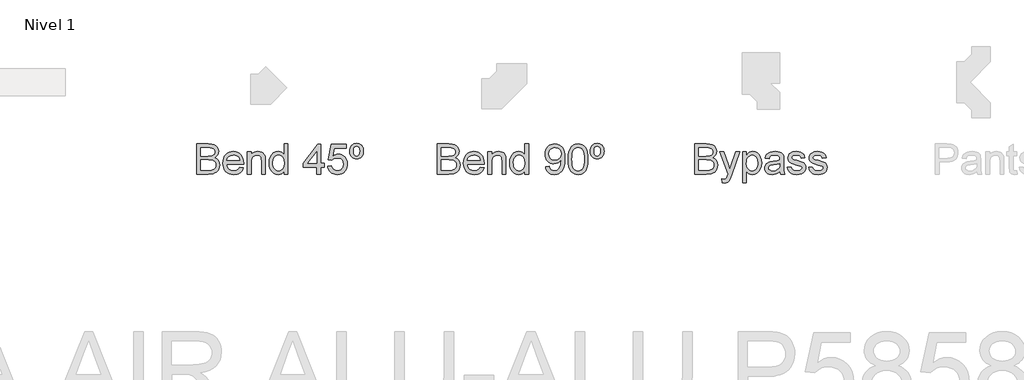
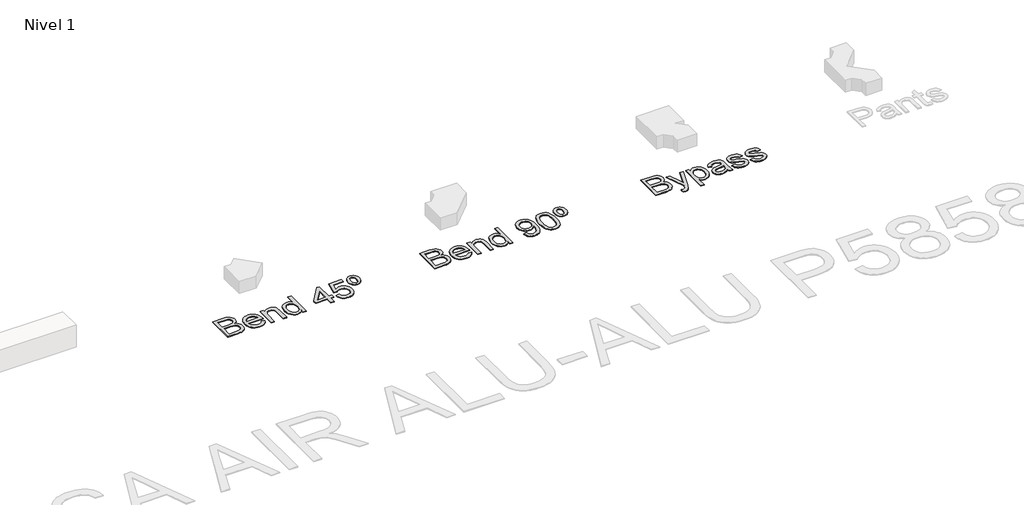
# One storey, part 4 of 7: 3 proxies.
"""IFC4 building model written with IfcOpenShell, lengths in millimetres."""

from ifc_helpers import new_model, si_unit, origin, origin_with_axes, place, context, project, spatial, polyline, outline, extrude, element, save

model = new_model("IFC4")

# Units and contexts
model_context = context("Model", 3, world=origin())
ifc_project = project(units=[si_unit("LENGTHUNIT", "METRE", prefix="MILLI")], contexts=[model_context])

# Site, building, storey
site = spatial("IfcSite", under=ifc_project)
building = spatial("IfcBuilding", under=site)
storey = spatial("IfcBuildingStorey", under=building, Name="Nivel 1", Elevation=0.0)

# Proxies
placement = place(None, origin())
element("IfcBuildingElementProxy", 1, Name="Texto de modelo 1", ObjectType="Texto de modelo 1", at=placement, inside=storey, context=model_context, shape_type="SweptSolid", body=[
    extrude(outline(polyline([(-13047.2257792, -4316.3248037), (-13047.2257792, -3914.4995631), (-12893.8925636, -3914.4995631), (-12851.7210242, -3917.4548818), (-12818.7955857, -3926.3208379), (-12793.5588808, -3941.3181605), (-12774.4535425, -3962.667579), (-12762.4238013, -3987.7816565), (-12758.4138875, -4014.0729565), (-12761.7861391, -4038.267329), (-12771.902894, -4061.014699), (-12788.8377285, -4080.917115), (-12812.6642191, -4096.5766252), (-12784.2024154, -4111.4390578), (-12763.171828, -4134.0515378), (-12750.1855936, -4162.9180117), (-12745.8568488, -4196.5424261), (-12748.8121674, -4224.5627714), (-12757.6781235, -4250.547503), (-12770.9096126, -4272.6449481), (-12786.9615303, -4289.0034342), (-12806.6186916, -4300.8492344), (-12830.6659114, -4309.4086222), (-12859.8880045, -4314.5957583), (-12895.069786, -4316.3248037), (-13047.2257792, -4316.3248037)]), holes=[polyline([(-12996.9976241, -4077.7410671), (-12905.27238, -4077.7410671), (-12851.7087615, -4073.424585), (-12832.9590425, -4065.981106), (-12819.4822987, -4054.8342815), (-12811.3521066, -4040.1557899), (-12808.6420426, -4022.1173094), (-12811.1681656, -4004.6061264), (-12818.7465347, -3989.3512864), (-12831.0337934, -3977.4441725), (-12847.686585, -3969.976168), (-12873.2421209, -3966.0398306), (-12912.2376124, -3964.7277182), (-12996.9976241, -3964.7277182), (-12996.9976241, -4077.7410671)]), polyline([(-12996.9976241, -4266.0966486), (-12893.9906655, -4266.0966486), (-12856.7119566, -4264.1346113), (-12825.1722069, -4253.1962533), (-12813.5961868, -4243.7662115), (-12804.2765096, -4230.8780789), (-12798.1328803, -4215.1082041), (-12796.0850038, -4197.0329354), (-12798.4884995, -4176.0391362), (-12805.6989866, -4157.988393), (-12818.2928136, -4143.8739871), (-12836.8463289, -4134.6891999), (-12863.1253661, -4129.6492166), (-12898.8957587, -4127.9692222), (-12996.9976241, -4127.9692222), (-12996.9976241, -4266.0966486)])]), origin_with_axes(), (0.0, 0.0, 1.0), 10.0),
    extrude(outline(polyline([(-12476.4691264, -4228.4255323), (-12427.22199, -4234.7040517), (-12434.7727679, -4254.428658), (-12444.9661649, -4271.8110823), (-12457.8021808, -4286.8513245), (-12473.2808158, -4299.5493847), (-12491.2426542, -4309.6354827), (-12511.5282806, -4316.8398385), (-12559.0708971, -4322.6033231), (-12590.2366334, -4320.1170539), (-12618.0055927, -4312.6582465), (-12642.3777749, -4300.2269007), (-12663.35318, -4282.8230167), (-12680.2205694, -4260.9309723), (-12692.2687048, -4235.0351455), (-12699.497586, -4205.1355363), (-12701.9072131, -4171.2321448), (-12699.4730605, -4136.179122), (-12692.1706029, -4105.2831658), (-12679.9998402, -4078.5442761), (-12662.9607725, -4055.962453), (-12642.0405497, -4038.0220743), (-12618.2263219, -4025.2075182), (-12591.518089, -4017.5187845), (-12561.9158512, -4014.9558732), (-12533.2670408, -4017.5126531), (-12507.3589513, -4025.1829927), (-12484.1915826, -4037.966892), (-12463.7649348, -4055.8643511), (-12447.0906834, -4078.3971233), (-12435.1805038, -4105.0869621), (-12428.0343961, -4135.9338674), (-12425.6523601, -4170.9378392), (-12425.9466657, -4184.4758966), (-12651.679058, -4184.4758966), (-12648.7697245, -4204.519334), (-12642.9847802, -4222.0734365), (-12634.3242249, -4237.1382042), (-12622.7880586, -4249.7136371), (-12609.0139436, -4259.6280569), (-12593.6395419, -4266.7097853), (-12558.0898784, -4272.375168), (-12531.3571201, -4269.7509431), (-12508.842742, -4261.8782684), (-12490.5467441, -4248.2666346), (-12476.4691264, -4228.4255323)]), holes=[polyline([(-12651.679058, -4134.2477415), (-12475.8805152, -4134.2477415), (-12482.6740694, -4107.711187), (-12495.9913976, -4088.728476), (-12509.6888706, -4078.4277801), (-12525.2748044, -4071.0701402), (-12542.7491992, -4066.6555563), (-12562.1120549, -4065.1840283), (-12595.9694612, -4069.8806551), (-12623.965281, -4083.9705355), (-12643.4262386, -4105.9330907), (-12651.679058, -4134.2477415)])]), origin_with_axes(), (0.0, 0.0, 1.0), 10.0),
    extrude(outline(polyline([(-12375.4242051, -4316.3248037), (-12375.4242051, -4021.2343926), (-12325.19605, -4021.2343926), (-12325.19605, -4062.4371761), (-12307.7461807, -4041.6641061), (-12286.7891697, -4026.826199), (-12262.325017, -4017.9234547), (-12234.3537227, -4014.9558732), (-12209.5952644, -4017.3471062), (-12186.9214707, -4024.5208051), (-12168.0123362, -4035.5817904), (-12154.5478552, -4049.6348827), (-12145.412119, -4066.6432936), (-12139.4892188, -4086.570235), (-12136.8404685, -4135.1306583), (-12136.8404685, -4316.3248037), (-12187.0686235, -4316.3248037), (-12187.0686235, -4141.899687), (-12188.5156261, -4115.9272182), (-12192.8566336, -4097.459542), (-12200.8641984, -4084.2280529), (-12213.3108725, -4073.9641453), (-12229.2646884, -4067.3790576), (-12247.7936782, -4065.1840283), (-12277.2119751, -4070.1136471), (-12302.2892644, -4084.9025033), (-12312.3109831, -4096.9751641), (-12319.4693536, -4113.4746716), (-12323.7643759, -4134.4010257), (-12325.19605, -4159.7542265), (-12325.19605, -4316.3248037), (-12375.4242051, -4316.3248037)])), origin_with_axes(), (0.0, 0.0, 1.0), 10.0),
    extrude(outline(polyline([(-11885.6996931, -4316.3248037), (-11885.6996931, -4268.9416027), (-11900.7276726, -4292.4186054), (-11918.9317, -4309.187893), (-11940.3117753, -4319.2494656), (-11964.8678985, -4322.6033231), (-11997.3396159, -4317.7472807), (-12027.0644811, -4303.1791537), (-12052.2276096, -4279.9167489), (-12071.0141168, -4248.9778731), (-12082.7127642, -4211.6133251), (-12086.6123134, -4169.0739038), (-12083.0193326, -4127.0617799), (-12072.2403901, -4089.1208835), (-12054.2877488, -4057.4094555), (-12029.1736712, -4034.085737), (-11998.7988811, -4019.7383392), (-11965.0641022, -4014.9558732), (-11940.4895849, -4018.3771758), (-11918.7600217, -4028.6410835), (-11900.3413965, -4044.3741701), (-11885.6996931, -4064.2030097), (-11885.6996931, -3914.4995631), (-11835.471538, -3914.4995631), (-11835.471538, -4316.3248037), (-11885.6996931, -4316.3248037)]), holes=[polyline([(-12036.3841583, -4168.8777), (-12034.9678126, -4193.2345538), (-12030.7187756, -4214.3111264), (-12023.6370472, -4232.1074179), (-12013.7226274, -4246.6234283), (-11989.0254828, -4265.9372331), (-11975.1502002, -4270.7656843), (-11960.2571108, -4272.375168), (-11945.2935106, -4270.8392607), (-11931.5010015, -4266.2315387), (-11907.4292563, -4247.8006507), (-11897.9225724, -4233.8916456), (-11891.1320839, -4216.7391476), (-11885.6996931, -4172.7036728), (-11891.2301858, -4124.5601823), (-11898.1433016, -4106.0250612), (-11907.8216637, -4091.1810226), (-11919.5233769, -4079.8073376), (-11932.5065456, -4071.6832769), (-11946.77117, -4066.8088405), (-11962.31725, -4065.1840283), (-11977.504645, -4066.7444611), (-11991.3799276, -4071.4257595), (-12003.9430977, -4079.2279235), (-12015.1941554, -4090.1509531), (-12024.4647817, -4104.4339715), (-12031.0866576, -4122.3161022), (-12036.3841583, -4168.8777)])]), origin_with_axes(), (0.0, 0.0, 1.0), 10.0),
    extrude(outline(polyline([(-11452.4818556, -4316.3248037), (-11452.4818556, -4222.1470129), (-11634.5589177, -4222.1470129), (-11634.5589177, -4171.9188579), (-11439.9248168, -3920.7780825), (-11402.2537005, -3920.7780825), (-11402.2537005, -4171.9188579), (-11352.0255454, -4171.9188579), (-11352.0255454, -4222.1470129), (-11402.2537005, -4222.1470129), (-11402.2537005, -4316.3248037), (-11452.4818556, -4316.3248037)]), holes=[polyline([(-11452.4818556, -4171.9188579), (-11452.4818556, -4016.7217068), (-11572.7547425, -4171.9188579), (-11452.4818556, -4171.9188579)])]), origin_with_axes(), (0.0, 0.0, 1.0), 10.0),
    extrude(outline(polyline([(-11308.0759097, -4209.5899742), (-11257.8477547, -4203.3114548), (-11248.6261793, -4233.4655156), (-11232.5374734, -4255.0601888), (-11209.6552133, -4268.0464232), (-11180.0529754, -4272.375168), (-11160.9231117, -4270.8699175), (-11144.0495908, -4266.354166), (-11129.4324129, -4258.8279135), (-11117.0715778, -4248.2911601), (-11107.2429972, -4235.2650717), (-11100.2225825, -4220.2708148), (-11094.6062507, -4184.3777948), (-11099.8669632, -4150.5817021), (-11106.4428539, -4136.6635), (-11115.6491008, -4124.7318606), (-11127.5163608, -4115.1607974), (-11142.0752908, -4108.3243236), (-11179.2681605, -4102.8551446), (-11203.6342113, -4105.0379111), (-11223.364949, -4111.5862106), (-11239.1225611, -4121.6171264), (-11251.5692353, -4134.2477415), (-11301.7973903, -4127.9692222), (-11257.8477547, -3920.7780825), (-11063.2136537, -3920.7780825), (-11063.2136537, -3971.0062376), (-11217.2335824, -3971.0062376), (-11238.7178909, -4081.6651417), (-11220.9921101, -4068.9609501), (-11202.8371336, -4059.8865276), (-11184.2529615, -4054.4418741), (-11165.2395937, -4052.6269896), (-11140.7785067, -4054.8772011), (-11118.3101139, -4061.6278357), (-11097.8344152, -4072.8788934), (-11079.3514106, -4088.6303741), (-11064.0505853, -4107.9196534), (-11053.1214243, -4129.7841067), (-11046.5639278, -4154.2237339), (-11044.3780956, -4181.2385351), (-11046.3462643, -4207.2600549), (-11052.2507703, -4231.4666901), (-11062.0916137, -4253.8584409), (-11075.8687944, -4274.4353072), (-11096.7399662, -4295.5088141), (-11121.0937543, -4310.5613191), (-11148.9301586, -4319.5928221), (-11180.2491791, -4322.6033231), (-11206.1695314, -4320.6688769), (-11229.5821547, -4314.8655384), (-11250.4870491, -4305.1933077), (-11268.8842145, -4291.6521846), (-11284.1911712, -4274.9166195), (-11295.8254393, -4255.6610627), (-11303.7870188, -4233.8855143), (-11308.0759097, -4209.5899742)])), origin_with_axes(), (0.0, 0.0, 1.0), 10.0),
    extrude(outline(polyline([(-10921.9469676, -3908.2210437), (-10902.7619215, -3909.9439577), (-10885.4285482, -3915.1126998), (-10869.9468476, -3923.7272698), (-10856.3168197, -3935.7876679), (-10845.200652, -3950.8830924), (-10837.2605323, -3968.6027419), (-10832.4964605, -3988.9466162), (-10830.9084365, -4011.9147154), (-10832.5056575, -4034.7969755), (-10837.2973205, -4055.0795362), (-10845.2834255, -4072.7623974), (-10856.4639725, -4087.8455592), (-10870.1215915, -4099.9059573), (-10885.5389128, -4108.5205274), (-10902.7159363, -4113.6892694), (-10921.652662, -4115.4121834), (-10940.8469051, -4113.7229919), (-10958.2078696, -4108.6554174), (-10973.7355555, -4100.2094599), (-10987.4299627, -4088.3851195), (-10998.6105097, -4073.5441467), (-11006.5966147, -4056.0482921), (-11011.3882777, -4035.8975558), (-11012.9854987, -4013.0919378), (-11011.3974747, -3989.6088038), (-11006.6334029, -3968.8970474), (-10998.6932832, -3950.9566688), (-10987.5771155, -3935.7876679), (-10973.9470876, -3923.7272698), (-10958.465387, -3915.1126998), (-10941.1320136, -3909.9439577), (-10921.9469676, -3908.2210437)]), holes=[polyline([(-10921.9469676, -3945.89216), (-10938.5139201, -3949.754921), (-10951.52468, -3961.3432038), (-10959.9491777, -3981.6870781), (-10962.7573436, -4011.8166136), (-10959.9001268, -4041.394326), (-10951.3284763, -4061.8485649), (-10938.2686654, -4073.7679415), (-10921.9469676, -4077.7410671), (-10905.5026424, -4073.7679415), (-10892.467357, -4061.8485649), (-10883.969283, -4041.0509694), (-10881.1365916, -4010.4431874), (-10883.9938084, -3981.7116036), (-10892.5654589, -3961.6375094), (-10905.6252697, -3949.8284974), (-10921.9469676, -3945.89216)])]), origin_with_axes(), (0.0, 0.0, 1.0), 10.0),
])
element("IfcBuildingElementProxy", 2, Name="Texto de modelo 1", ObjectType="Texto de modelo 1", at=placement, inside=storey, context=model_context, shape_type="SweptSolid", body=[
    extrude(outline(polyline([(-9847.2257792, -4316.3248037), (-9847.2257792, -3914.4995631), (-9693.8925636, -3914.4995631), (-9651.7210242, -3917.4548818), (-9618.7955857, -3926.3208379), (-9593.5588808, -3941.3181605), (-9574.4535425, -3962.667579), (-9562.4238013, -3987.7816565), (-9558.4138875, -4014.0729565), (-9561.7861391, -4038.267329), (-9571.902894, -4061.014699), (-9588.8377285, -4080.917115), (-9612.6642191, -4096.5766252), (-9584.2024154, -4111.4390578), (-9563.171828, -4134.0515378), (-9550.1855936, -4162.9180117), (-9545.8568488, -4196.5424261), (-9548.8121674, -4224.5627714), (-9557.6781235, -4250.547503), (-9570.9096126, -4272.6449481), (-9586.9615303, -4289.0034342), (-9606.6186916, -4300.8492344), (-9630.6659114, -4309.4086222), (-9659.8880045, -4314.5957583), (-9695.069786, -4316.3248037), (-9847.2257792, -4316.3248037)]), holes=[polyline([(-9796.9976241, -4077.7410671), (-9705.27238, -4077.7410671), (-9651.7087615, -4073.424585), (-9632.9590425, -4065.981106), (-9619.4822987, -4054.8342815), (-9611.3521066, -4040.1557899), (-9608.6420426, -4022.1173094), (-9611.1681656, -4004.6061264), (-9618.7465347, -3989.3512864), (-9631.0337934, -3977.4441725), (-9647.686585, -3969.976168), (-9673.2421209, -3966.0398306), (-9712.2376124, -3964.7277182), (-9796.9976241, -3964.7277182), (-9796.9976241, -4077.7410671)]), polyline([(-9796.9976241, -4266.0966486), (-9693.9906655, -4266.0966486), (-9656.7119566, -4264.1346113), (-9625.1722069, -4253.1962533), (-9613.5961868, -4243.7662115), (-9604.2765096, -4230.8780789), (-9598.1328803, -4215.1082041), (-9596.0850038, -4197.0329354), (-9598.4884995, -4176.0391362), (-9605.6989866, -4157.988393), (-9618.2928136, -4143.8739871), (-9636.8463289, -4134.6891999), (-9663.1253661, -4129.6492166), (-9698.8957587, -4127.9692222), (-9796.9976241, -4127.9692222), (-9796.9976241, -4266.0966486)])]), origin_with_axes(), (0.0, 0.0, 1.0), 10.0),
    extrude(outline(polyline([(-9276.4691264, -4228.4255323), (-9227.22199, -4234.7040517), (-9234.7727679, -4254.428658), (-9244.9661649, -4271.8110823), (-9257.8021808, -4286.8513245), (-9273.2808158, -4299.5493847), (-9291.2426542, -4309.6354827), (-9311.5282806, -4316.8398385), (-9359.0708971, -4322.6033231), (-9390.2366334, -4320.1170539), (-9418.0055927, -4312.6582465), (-9442.3777749, -4300.2269007), (-9463.35318, -4282.8230167), (-9480.2205694, -4260.9309723), (-9492.2687048, -4235.0351455), (-9499.497586, -4205.1355363), (-9501.9072131, -4171.2321448), (-9499.4730605, -4136.179122), (-9492.1706029, -4105.2831658), (-9479.9998402, -4078.5442761), (-9462.9607725, -4055.962453), (-9442.0405497, -4038.0220743), (-9418.2263219, -4025.2075182), (-9391.518089, -4017.5187845), (-9361.9158512, -4014.9558732), (-9333.2670408, -4017.5126531), (-9307.3589513, -4025.1829927), (-9284.1915826, -4037.966892), (-9263.7649348, -4055.8643511), (-9247.0906834, -4078.3971233), (-9235.1805038, -4105.0869621), (-9228.0343961, -4135.9338674), (-9225.6523601, -4170.9378392), (-9225.9466657, -4184.4758966), (-9451.679058, -4184.4758966), (-9448.7697245, -4204.519334), (-9442.9847802, -4222.0734365), (-9434.3242249, -4237.1382042), (-9422.7880586, -4249.7136371), (-9409.0139436, -4259.6280569), (-9393.6395419, -4266.7097853), (-9358.0898784, -4272.375168), (-9331.3571201, -4269.7509431), (-9308.842742, -4261.8782684), (-9290.5467441, -4248.2666346), (-9276.4691264, -4228.4255323)]), holes=[polyline([(-9451.679058, -4134.2477415), (-9275.8805152, -4134.2477415), (-9282.6740694, -4107.711187), (-9295.9913976, -4088.728476), (-9309.6888706, -4078.4277801), (-9325.2748044, -4071.0701402), (-9342.7491992, -4066.6555563), (-9362.1120549, -4065.1840283), (-9395.9694612, -4069.8806551), (-9423.965281, -4083.9705355), (-9443.4262386, -4105.9330907), (-9451.679058, -4134.2477415)])]), origin_with_axes(), (0.0, 0.0, 1.0), 10.0),
    extrude(outline(polyline([(-9175.4242051, -4316.3248037), (-9175.4242051, -4021.2343926), (-9125.19605, -4021.2343926), (-9125.19605, -4062.4371761), (-9107.7461807, -4041.6641061), (-9086.7891697, -4026.826199), (-9062.325017, -4017.9234547), (-9034.3537227, -4014.9558732), (-9009.5952644, -4017.3471062), (-8986.9214707, -4024.5208051), (-8968.0123362, -4035.5817904), (-8954.5478552, -4049.6348827), (-8945.412119, -4066.6432936), (-8939.4892188, -4086.570235), (-8936.8404685, -4135.1306583), (-8936.8404685, -4316.3248037), (-8987.0686235, -4316.3248037), (-8987.0686235, -4141.899687), (-8988.5156261, -4115.9272182), (-8992.8566336, -4097.459542), (-9000.8641984, -4084.2280529), (-9013.3108725, -4073.9641453), (-9029.2646884, -4067.3790576), (-9047.7936782, -4065.1840283), (-9077.2119751, -4070.1136471), (-9102.2892644, -4084.9025033), (-9112.3109831, -4096.9751641), (-9119.4693536, -4113.4746716), (-9123.7643759, -4134.4010257), (-9125.19605, -4159.7542265), (-9125.19605, -4316.3248037), (-9175.4242051, -4316.3248037)])), origin_with_axes(), (0.0, 0.0, 1.0), 10.0),
    extrude(outline(polyline([(-8685.6996931, -4316.3248037), (-8685.6996931, -4268.9416027), (-8700.7276726, -4292.4186054), (-8718.9317, -4309.187893), (-8740.3117753, -4319.2494656), (-8764.8678985, -4322.6033231), (-8797.3396159, -4317.7472807), (-8827.0644811, -4303.1791537), (-8852.2276096, -4279.9167489), (-8871.0141168, -4248.9778731), (-8882.7127642, -4211.6133251), (-8886.6123134, -4169.0739038), (-8883.0193326, -4127.0617799), (-8872.2403901, -4089.1208835), (-8854.2877488, -4057.4094555), (-8829.1736712, -4034.085737), (-8798.7988811, -4019.7383392), (-8765.0641022, -4014.9558732), (-8740.4895849, -4018.3771758), (-8718.7600217, -4028.6410835), (-8700.3413965, -4044.3741701), (-8685.6996931, -4064.2030097), (-8685.6996931, -3914.4995631), (-8635.471538, -3914.4995631), (-8635.471538, -4316.3248037), (-8685.6996931, -4316.3248037)]), holes=[polyline([(-8836.3841583, -4168.8777), (-8834.9678126, -4193.2345538), (-8830.7187756, -4214.3111264), (-8823.6370472, -4232.1074179), (-8813.7226274, -4246.6234283), (-8789.0254828, -4265.9372331), (-8775.1502002, -4270.7656843), (-8760.2571108, -4272.375168), (-8745.2935106, -4270.8392607), (-8731.5010015, -4266.2315387), (-8707.4292563, -4247.8006507), (-8697.9225724, -4233.8916456), (-8691.1320839, -4216.7391476), (-8685.6996931, -4172.7036728), (-8691.2301858, -4124.5601823), (-8698.1433016, -4106.0250612), (-8707.8216637, -4091.1810226), (-8719.5233769, -4079.8073376), (-8732.5065456, -4071.6832769), (-8746.77117, -4066.8088405), (-8762.31725, -4065.1840283), (-8777.504645, -4066.7444611), (-8791.3799276, -4071.4257595), (-8803.9430977, -4079.2279235), (-8815.1941554, -4090.1509531), (-8824.4647817, -4104.4339715), (-8831.0866576, -4122.3161022), (-8836.3841583, -4168.8777)])]), origin_with_axes(), (0.0, 0.0, 1.0), 10.0),
    extrude(outline(polyline([(-8409.4448402, -4215.8684935), (-8359.2166851, -4209.5899742), (-8350.6327719, -4238.1008288), (-8336.6532561, -4257.5127354), (-8317.6214942, -4268.6595599), (-8293.8808428, -4272.375168), (-8272.5804752, -4269.983935), (-8253.2176196, -4262.8102361), (-8237.1289136, -4251.6388862), (-8225.6509954, -4237.2547002), (-8209.2189329, -4193.5993701), (-8203.7742794, -4165.1988801), (-8201.9593949, -4135.3268621), (-8202.2537005, -4125.5166755), (-8219.6545189, -4146.7557294), (-8242.4264144, -4163.5801993), (-8268.9261808, -4174.5430828), (-8297.5106118, -4178.1973772), (-8321.3708249, -4175.9655598), (-8343.3119202, -4169.2701075), (-8363.3338978, -4158.1110203), (-8381.4367576, -4142.4882982), (-8396.437146, -4123.2174131), (-8407.1517091, -4101.1138365), (-8413.5804469, -4076.1775686), (-8415.7233596, -4048.4086093), (-8413.4762137, -4019.7138137), (-8406.7347762, -3993.9620741), (-8395.4990469, -3971.1533904), (-8379.7690259, -3951.2877626), (-8360.6544906, -3935.1929253), (-8339.2652182, -3923.696613), (-8315.6012089, -3916.7988256), (-8289.6624626, -3914.4995631), (-8252.1998127, -3919.7480129), (-8218.0971518, -3935.4933623), (-8189.5740344, -3960.9507964), (-8168.8500153, -3995.3355002), (-8156.2316629, -4042.8658539), (-8152.0255454, -4107.7602379), (-8156.2194002, -4176.5664337), (-8168.8009644, -4229.7499075), (-8189.6598735, -4269.7141549), (-8203.1519457, -4285.6403796), (-8218.685763, -4298.8626717), (-8235.9486256, -4309.2492067), (-8254.6278339, -4316.6681602), (-8296.2352875, -4322.6033231), (-8318.7925852, -4320.8528179), (-8339.1793791, -4315.6013024), (-8357.3956692, -4306.8487766), (-8373.4414556, -4294.5952405), (-8386.912068, -4279.1717879), (-8397.4028362, -4260.9095125), (-8404.9137603, -4239.8084144), (-8409.4448402, -4215.8684935)]), holes=[polyline([(-8202.2537005, -4047.231387), (-8207.6738286, -4013.1900397), (-8214.4489886, -3999.112422), (-8223.9342127, -3986.9968416), (-8235.663517, -3977.2541001), (-8249.1709176, -3970.294999), (-8281.5200077, -3964.7277182), (-8299.1292926, -3966.2268373), (-8315.0708457, -3970.7241947), (-8329.3446671, -3978.2197903), (-8341.9507568, -3988.7136243), (-8352.2514527, -4001.5925598), (-8359.6090926, -4016.2434602), (-8364.0236765, -4032.6663256), (-8365.4952045, -4050.861156), (-8359.9279236, -4081.8981336), (-8352.9688226, -4095.0161924), (-8343.2260811, -4106.5339646), (-8331.1043693, -4115.9118898), (-8317.0083575, -4122.6104078), (-8282.8934338, -4127.9692222), (-8250.8018611, -4122.6104078), (-8224.9642823, -4106.5339646), (-8215.0284028, -4094.7893319), (-8207.931346, -4080.9906914), (-8202.2537005, -4047.231387)])]), origin_with_axes(), (0.0, 0.0, 1.0), 10.0),
    extrude(outline(polyline([(-8108.0759097, -4118.649545), (-8104.384827, -4054.3315095), (-8093.311579, -4003.0364966), (-8074.9665302, -3963.9796914), (-8063.1084672, -3948.7463112), (-8049.4600452, -3936.3762791), (-8033.9752789, -3926.8052158), (-8016.608183, -3919.9687421), (-7976.2270027, -3914.4995631), (-7945.2758641, -3917.7369247), (-7917.5620872, -3927.4490093), (-7894.3855215, -3943.2556724), (-7877.0460168, -3964.7767691), (-7863.9494177, -3991.8283585), (-7853.5015691, -4024.2264995), (-7846.658964, -4065.3679693), (-7844.3780956, -4118.649545), (-7848.0323901, -4182.5996984), (-7858.9952735, -4233.772084), (-7877.2299578, -4272.8656773), (-7889.0604296, -4288.1450429), (-7902.6996546, -4300.5794543), (-7918.202815, -4310.2148969), (-7935.6250931, -4317.0973559), (-7976.2270027, -4322.6033231), (-8003.8917287, -4320.2120901), (-8028.417195, -4313.0383912), (-8049.8034017, -4301.0822264), (-8068.0503487, -4284.3435956), (-8085.5615316, -4254.0853015), (-8098.0695195, -4216.3835283), (-8105.5743122, -4171.2382762), (-8108.0759097, -4118.649545)]), holes=[polyline([(-8057.8477547, -4118.5514431), (-8056.3762267, -4162.2159702), (-8051.9616427, -4197.5602329), (-8044.6040028, -4224.5842311), (-8034.303307, -4243.2879649), (-8021.8443701, -4256.0136163), (-8008.012007, -4265.1033672), (-7992.8062179, -4270.5572178), (-7976.2270027, -4272.375168), (-7959.6477874, -4270.5510864), (-7944.4419983, -4265.0788418), (-7930.6096353, -4255.958434), (-7918.1506984, -4243.1898631), (-7907.8500025, -4224.4554724), (-7900.4923626, -4197.4376056), (-7896.0777786, -4162.1362625), (-7894.6062507, -4118.5514431), (-7896.0287277, -4076.0426785), (-7900.2961589, -4041.3207496), (-7907.4085441, -4014.3856562), (-7917.3658834, -3995.2373983), (-7929.6163539, -3981.8894132), (-7943.6081324, -3972.3551382), (-7959.3412191, -3966.6345732), (-7976.8156139, -3964.7277182), (-7993.30899, -3966.4077126), (-8008.2572617, -3971.4476959), (-8021.6604291, -3979.8476682), (-8033.518492, -3991.6076293), (-8044.1625444, -4012.4542757), (-8051.765439, -4040.5604601), (-8056.3271757, -4075.9261826), (-8057.8477547, -4118.5514431)])]), origin_with_axes(), (0.0, 0.0, 1.0), 10.0),
    extrude(outline(polyline([(-7721.9469676, -3908.2210437), (-7702.7619215, -3909.9439577), (-7685.4285482, -3915.1126998), (-7669.9468476, -3923.7272698), (-7656.3168197, -3935.7876679), (-7645.200652, -3950.8830924), (-7637.2605323, -3968.6027419), (-7632.4964605, -3988.9466162), (-7630.9084365, -4011.9147154), (-7632.5056575, -4034.7969755), (-7637.2973205, -4055.0795362), (-7645.2834255, -4072.7623974), (-7656.4639725, -4087.8455592), (-7670.1215915, -4099.9059573), (-7685.5389128, -4108.5205274), (-7702.7159363, -4113.6892694), (-7721.652662, -4115.4121834), (-7740.8469051, -4113.7229919), (-7758.2078696, -4108.6554174), (-7773.7355555, -4100.2094599), (-7787.4299627, -4088.3851195), (-7798.6105097, -4073.5441467), (-7806.5966147, -4056.0482921), (-7811.3882777, -4035.8975558), (-7812.9854987, -4013.0919378), (-7811.3974747, -3989.6088038), (-7806.6334029, -3968.8970474), (-7798.6932832, -3950.9566688), (-7787.5771155, -3935.7876679), (-7773.9470876, -3923.7272698), (-7758.465387, -3915.1126998), (-7741.1320136, -3909.9439577), (-7721.9469676, -3908.2210437)]), holes=[polyline([(-7721.9469676, -3945.89216), (-7738.5139201, -3949.754921), (-7751.52468, -3961.3432038), (-7759.9491777, -3981.6870781), (-7762.7573436, -4011.8166136), (-7759.9001268, -4041.394326), (-7751.3284763, -4061.8485649), (-7738.2686654, -4073.7679415), (-7721.9469676, -4077.7410671), (-7705.5026424, -4073.7679415), (-7692.467357, -4061.8485649), (-7683.969283, -4041.0509694), (-7681.1365916, -4010.4431874), (-7683.9938084, -3981.7116036), (-7692.5654589, -3961.6375094), (-7705.6252697, -3949.8284974), (-7721.9469676, -3945.89216)])]), origin_with_axes(), (0.0, 0.0, 1.0), 10.0),
])
element("IfcBuildingElementProxy", 3, Name="Texto de modelo 1", ObjectType="Texto de modelo 1", at=placement, inside=storey, context=model_context, shape_type="SweptSolid", body=[
    extrude(outline(polyline([(-6421.1990814, -4316.3248037), (-6421.1990814, -3914.4995631), (-6267.8658658, -3914.4995631), (-6225.6943264, -3917.4548818), (-6192.7688878, -3926.3208379), (-6167.532183, -3941.3181605), (-6148.4268447, -3962.667579), (-6136.3971034, -3987.7816565), (-6132.3871897, -4014.0729565), (-6135.7594413, -4038.267329), (-6145.8761962, -4061.014699), (-6162.8110307, -4080.917115), (-6186.6375212, -4096.5766252), (-6158.1757175, -4111.4390578), (-6137.1451302, -4134.0515378), (-6124.1588957, -4162.9180117), (-6119.8301509, -4196.5424261), (-6122.7854696, -4224.5627714), (-6131.6514257, -4250.547503), (-6144.8829148, -4272.6449481), (-6160.9348325, -4289.0034342), (-6180.5919938, -4300.8492344), (-6204.6392135, -4309.4086222), (-6233.8613067, -4314.5957583), (-6269.0430882, -4316.3248037), (-6421.1990814, -4316.3248037)]), holes=[polyline([(-6370.9709263, -4077.7410671), (-6279.2456822, -4077.7410671), (-6225.6820637, -4073.424585), (-6206.9323446, -4065.981106), (-6193.4556009, -4054.8342815), (-6185.3254088, -4040.1557899), (-6182.6153448, -4022.1173094), (-6185.1414678, -4004.6061264), (-6192.7198369, -3989.3512864), (-6205.0070955, -3977.4441725), (-6221.6598872, -3969.976168), (-6247.2154231, -3966.0398306), (-6286.2109146, -3964.7277182), (-6370.9709263, -3964.7277182), (-6370.9709263, -4077.7410671)]), polyline([(-6370.9709263, -4266.0966486), (-6267.9639676, -4266.0966486), (-6230.6852588, -4264.1346113), (-6199.1455091, -4253.1962533), (-6187.569489, -4243.7662115), (-6178.2498117, -4230.8780789), (-6172.1061824, -4215.1082041), (-6170.058306, -4197.0329354), (-6172.4618017, -4176.0391362), (-6179.6722888, -4157.988393), (-6192.2661158, -4143.8739871), (-6210.8196311, -4134.6891999), (-6237.0986682, -4129.6492166), (-6272.8690609, -4127.9692222), (-6370.9709263, -4127.9692222), (-6370.9709263, -4266.0966486)])]), origin_with_axes(), (0.0, 0.0, 1.0), 10.0),
    extrude(outline(polyline([(-6057.0449571, -4429.3381526), (-6063.3234765, -4380.973933), (-6037.8169915, -4385.3885169), (-6024.4015614, -4384.0028281), (-6013.9782382, -4379.8457615), (-5999.3610602, -4364.3947177), (-5985.6267991, -4327.4103145), (-5981.7027245, -4315.2456832), (-6088.437554, -4021.2343926), (-6035.4625467, -4021.2343926), (-5978.8577704, -4185.0645078), (-5959.1392954, -4250.5965539), (-5939.4208205, -4192.7164533), (-5881.2464143, -4021.2343926), (-5828.6638145, -4021.2343926), (-5931.3764675, -4323.388138), (-5958.0601749, -4388.9201841), (-5971.7208597, -4409.8404069), (-5987.1964289, -4424.3349575), (-6005.1735958, -4432.7962434), (-6026.3390732, -4435.616672), (-6057.0449571, -4429.3381526)])), origin_with_axes(), (0.0, 0.0, 1.0), 10.0),
    extrude(outline(polyline([(-5787.0686235, -4429.3381526), (-5787.0686235, -4021.2343926), (-5736.8404685, -4021.2343926), (-5736.8404685, -4070.4815291), (-5720.4574569, -4046.1890546), (-5702.1124081, -4028.8372872), (-5680.7262015, -4018.4262267), (-5655.2197165, -4014.9558732), (-5621.2519456, -4019.8119156), (-5591.5516058, -4034.3800426), (-5567.369496, -4057.7773375), (-5549.9564149, -4089.1208835), (-5539.4349899, -4126.1298122), (-5535.9278482, -4166.5232553), (-5539.888711, -4209.4796096), (-5551.7712994, -4247.8987526), (-5571.1954688, -4279.8309098), (-5597.7810743, -4303.3263065), (-5628.7444756, -4317.7840689), (-5661.3020321, -4322.6033231), (-5684.3927587, -4319.3782243), (-5705.0064132, -4309.7029278), (-5722.6524862, -4295.0980126), (-5736.8404685, -4277.0840575), (-5736.8404685, -4429.3381526), (-5787.0686235, -4429.3381526)]), holes=[polyline([(-5736.8404685, -4171.1340429), (-5731.4080777, -4216.1627991), (-5724.6175892, -4233.6004057), (-5715.1109053, -4247.6534979), (-5691.0636855, -4266.1947505), (-5677.3018332, -4270.8300636), (-5662.3811526, -4272.375168), (-5647.2458742, -4270.7748813), (-5633.2326359, -4265.9740213), (-5620.3414376, -4257.9725879), (-5608.5722795, -4246.7705811), (-5598.7651586, -4232.2085855), (-5591.7600723, -4214.1271854), (-5587.5570205, -4192.526381), (-5586.1560032, -4167.406172), (-5591.6251822, -4122.6226705), (-5598.461656, -4105.0501739), (-5608.0327192, -4090.6905133), (-5632.0431508, -4071.5606496), (-5645.6486532, -4066.7781836), (-5660.3210135, -4065.1840283), (-5674.9473885, -4066.8793512), (-5688.7092408, -4071.9653198), (-5713.6393773, -4092.3091941), (-5723.7898547, -4107.4076843), (-5731.0401957, -4125.5779892), (-5735.3904003, -4146.8201087), (-5736.8404685, -4171.1340429)])]), origin_with_axes(), (0.0, 0.0, 1.0), 10.0),
    extrude(outline(polyline([(-5291.0655922, -4278.6536874), (-5315.063761, -4299.2305537), (-5339.7731683, -4312.6950347), (-5365.7578999, -4320.126251), (-5393.5820415, -4322.6033231), (-5415.9462011, -4321.113401), (-5435.5573772, -4316.6436348), (-5452.4155696, -4309.1940244), (-5466.5207784, -4298.7645698), (-5477.6584058, -4286.0174587), (-5485.613854, -4271.6148785), (-5490.3871228, -4255.5568295), (-5491.9782125, -4237.8433114), (-5489.5747168, -4217.0211905), (-5482.3642297, -4198.1120559), (-5471.2419307, -4181.9252481), (-5457.1029993, -4169.2701075), (-5440.4869959, -4159.7051756), (-5421.9334806, -4152.7889941), (-5378.4743542, -4145.2351505), (-5327.1180277, -4137.2888994), (-5291.3598978, -4127.9692222), (-5291.0655922, -4116.7856095), (-5294.5236829, -4094.3693333), (-5304.8979552, -4079.7031044), (-5328.0990464, -4068.8137973), (-5360.423611, -4065.1840283), (-5390.3446799, -4067.5997868), (-5411.2403773, -4074.8470621), (-5425.4896732, -4088.2502294), (-5435.471538, -4109.133664), (-5485.6996931, -4102.8551446), (-5476.9808898, -4075.3866223), (-5463.9701299, -4053.8042119), (-5445.4534028, -4037.2985731), (-5420.216698, -4025.0603654), (-5389.3513986, -4017.4819963), (-5353.9488879, -4014.9558732), (-5319.9933797, -4017.1876907), (-5293.0766804, -4023.883143), (-5272.781857, -4033.9508469), (-5258.6919766, -4046.2994192), (-5249.3477739, -4061.566522), (-5243.2899837, -4080.3898175), (-5240.8374371, -4124.3394531), (-5240.8374371, -4186.8303414), (-5238.2867886, -4274.0919506), (-5228.2803983, -4316.3248037), (-5278.5085534, -4316.3248037), (-5286.5529064, -4298.8626717), (-5291.0655922, -4278.6536874)]), holes=[polyline([(-5291.0655922, -4178.1973772), (-5324.8126339, -4186.5605613), (-5372.097733, -4193.5993701), (-5415.3116047, -4201.7418249), (-5426.556531, -4207.3091058), (-5434.8829268, -4214.9855768), (-5440.0332748, -4224.1826266), (-5441.7500574, -4234.3116442), (-5438.0099238, -4249.2476532), (-5426.7895229, -4261.4858609), (-5408.3341095, -4269.6528412), (-5382.8889382, -4272.375168), (-5355.9109252, -4269.3707984), (-5332.0721719, -4260.3576895), (-5312.7461044, -4247.0771495), (-5299.3061489, -4231.2704864), (-5293.3464605, -4214.9855768), (-5291.3598978, -4192.4221477), (-5291.0655922, -4178.1973772)])]), origin_with_axes(), (0.0, 0.0, 1.0), 10.0),
    extrude(outline(polyline([(-5190.609282, -4228.4255323), (-5140.381127, -4222.1470129), (-5132.4594013, -4243.6313214), (-5117.1309849, -4259.4257218), (-5094.2977757, -4269.1378064), (-5063.861672, -4272.375168), (-5033.7934502, -4269.4075866), (-5012.6524982, -4260.5048423), (-5000.1445104, -4247.604447), (-4995.9751811, -4232.6439125), (-5000.1690359, -4219.8416191), (-5012.7506001, -4210.0804835), (-5064.4502832, -4195.7576111), (-5140.0868214, -4171.1830939), (-5159.2289478, -4158.8345216), (-5173.0980991, -4142.4882982), (-5181.5225967, -4123.1867562), (-5184.3307626, -4101.9722278), (-5182.0744197, -4082.5112703), (-5175.305391, -4064.5463662), (-5164.6368132, -4048.7887541), (-5150.6818228, -4035.9496724), (-5118.7496656, -4021.0872398), (-5097.866231, -4016.4887149), (-5075.5357939, -4014.9558732), (-5042.8433473, -4017.4206826), (-5014.4183318, -4024.8151107), (-4991.5605972, -4036.4156563), (-4975.5699931, -4051.4988181), (-4964.9749917, -4071.1805048), (-4958.3040648, -4096.5766252), (-5008.5322199, -4102.8551446), (-5014.8720529, -4087.0484816), (-5027.416829, -4075.1413677), (-5046.2891753, -4067.6733632), (-5071.6117193, -4065.1840283), (-5100.4536677, -4067.5629986), (-5119.6816334, -4074.6999093), (-5130.497364, -4085.0006051), (-5134.1026076, -4096.8709308), (-5128.1183938, -4111.4881088), (-5109.3809375, -4122.5736196), (-5066.1180149, -4133.2667229), (-4992.394463, -4156.9092725), (-4972.9212428, -4168.2155124), (-4958.156912, -4183.6910817), (-4948.8494975, -4203.3850312), (-4945.747026, -4227.3464118), (-4949.3890578, -4252.1171328), (-4960.315153, -4275.4163258), (-4978.1083789, -4295.4168436), (-5002.3518024, -4310.291539), (-5031.6352092, -4319.5253771), (-5064.548385, -4322.6033231), (-5091.5815803, -4321.1195324), (-5115.193473, -4316.6681602), (-5135.3840632, -4309.2492067), (-5152.1533508, -4298.8626717), (-5165.8508238, -4285.5576062), (-5176.8259699, -4269.3830611), (-5185.0787894, -4250.3390365), (-5190.609282, -4228.4255323)])), origin_with_axes(), (0.0, 0.0, 1.0), 10.0),
    extrude(outline(polyline([(-4908.0759097, -4228.4255323), (-4857.8477547, -4222.1470129), (-4849.926029, -4243.6313214), (-4834.5976126, -4259.4257218), (-4811.7644034, -4269.1378064), (-4781.3282997, -4272.375168), (-4751.2600779, -4269.4075866), (-4730.1191259, -4260.5048423), (-4717.6111381, -4247.604447), (-4713.4418088, -4232.6439125), (-4717.6356636, -4219.8416191), (-4730.2172278, -4210.0804835), (-4781.9169109, -4195.7576111), (-4857.5534491, -4171.1830939), (-4876.6955755, -4158.8345216), (-4890.5647268, -4142.4882982), (-4898.9892245, -4123.1867562), (-4901.7973903, -4101.9722278), (-4899.5410474, -4082.5112703), (-4892.7720187, -4064.5463662), (-4882.1034409, -4048.7887541), (-4868.1484505, -4035.9496724), (-4836.2162933, -4021.0872398), (-4815.3328587, -4016.4887149), (-4793.0024216, -4014.9558732), (-4760.309975, -4017.4206826), (-4731.8849595, -4024.8151107), (-4709.0272249, -4036.4156563), (-4693.0366208, -4051.4988181), (-4682.4416194, -4071.1805048), (-4675.7706925, -4096.5766252), (-4725.9988476, -4102.8551446), (-4732.3386806, -4087.0484816), (-4744.8834567, -4075.1413677), (-4763.755803, -4067.6733632), (-4789.078347, -4065.1840283), (-4817.9202954, -4067.5629986), (-4837.1482611, -4074.6999093), (-4847.9639917, -4085.0006051), (-4851.5692353, -4096.8709308), (-4845.5850215, -4111.4881088), (-4826.8475652, -4122.5736196), (-4783.5846426, -4133.2667229), (-4709.8610907, -4156.9092725), (-4690.3878705, -4168.2155124), (-4675.6235397, -4183.6910817), (-4666.3161252, -4203.3850312), (-4663.2136537, -4227.3464118), (-4666.8556855, -4252.1171328), (-4677.7817808, -4275.4163258), (-4695.5750066, -4295.4168436), (-4719.8184301, -4310.291539), (-4749.1018369, -4319.5253771), (-4782.0150127, -4322.6033231), (-4809.048208, -4321.1195324), (-4832.6601007, -4316.6681602), (-4852.8506909, -4309.2492067), (-4869.6199785, -4298.8626717), (-4883.3174515, -4285.5576062), (-4894.2925976, -4269.3830611), (-4902.5454171, -4250.3390365), (-4908.0759097, -4228.4255323)])), origin_with_axes(), (0.0, 0.0, 1.0), 10.0),
])

save(model, "model.ifc")
